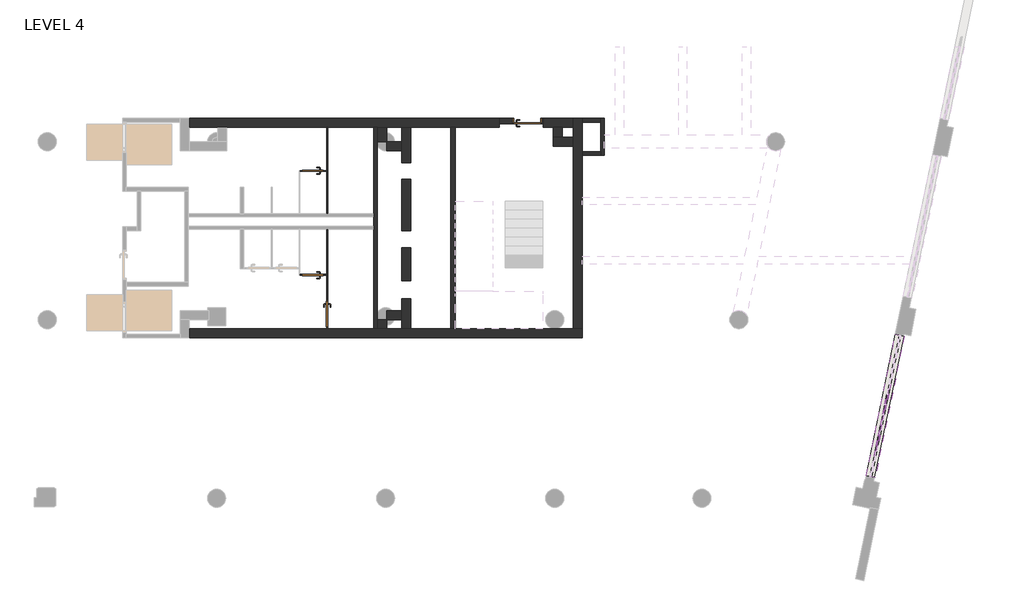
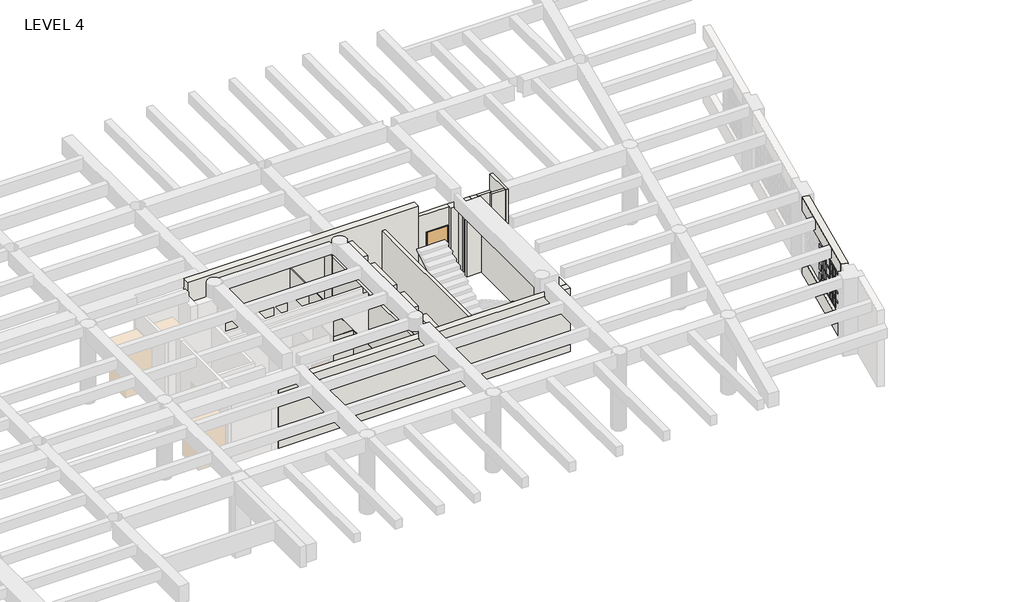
# One storey, part 18 of 26: 49 members, 26 walls, 20 plates, 4 doors.
"""IFC4 building model written with IfcOpenShell, lengths in millimetres."""

from ifc_helpers import new_model, si_unit, frame, origin, origin_with_axes, place, context, project, spatial, polyline, outline, extrude, faceted_brep, transform, mapped, element, save
from components import door_08_door_single_swing_wh_f_28x60_77af0ad2, door_08_door_single_swing_wh_f_28x60_203d07ed, door_08_door_single_swing_wh_f_34x60_2c6df15a, door_08_door_single_swing_wh_f_36x84_84392a36, member_3d4b608b, member_3c10d71f, member_653bb31e, member_ff98d70f, system_panel_glazed_ab35d819, system_panel_glazed_3fb58467

model = new_model("IFC4")

# Units and contexts
model_context = context("Model", 3, world=origin())
ifc_project = project(units=[si_unit("LENGTHUNIT", "METRE", prefix="MILLI")], contexts=[model_context])

# Site, building, storey
site = spatial("IfcSite", under=ifc_project)
building = spatial("IfcBuilding", under=site)
storey = spatial("IfcBuildingStorey", under=building, Name="LEVEL 4", Elevation=0.0)

# Doors
placement = place(None, origin())
door_08_door_single_swing_wh_f_28x60_shape = door_08_door_single_swing_wh_f_28x60_77af0ad2(model_context)
element("IfcDoor", 1, ObjectType="08-DOOR-SINGLE-SWING-WH : F_28x60", at=placement, inside=storey, context=model_context, shape_type="MappedRepresentation", body=[
    mapped(door_08_door_single_swing_wh_f_28x60_shape, transform((207.9568104, 100806.7341334, 0.0), x_axis=(1.0, 0.0, 0.0), y_axis=(0.0, 1.0, 0.0), z_axis=(0.0, 0.0, 1.0))),
])
door_08_door_single_swing_wh_f_28x60_2_shape = door_08_door_single_swing_wh_f_28x60_203d07ed(model_context)
element("IfcDoor", 2, ObjectType="08-DOOR-SINGLE-SWING-WH : F_28x60", at=placement, inside=storey, context=model_context, shape_type="MappedRepresentation", body=[
    mapped(door_08_door_single_swing_wh_f_28x60_2_shape, transform((207.9568104, 104315.8581071, 0.0), x_axis=(1.0, 0.0, 0.0), y_axis=(0.0, 1.0, 0.0), z_axis=(0.0, 0.0, 1.0))),
])
door_08_door_single_swing_wh_f_34x60_shape = door_08_door_single_swing_wh_f_34x60_2c6df15a(model_context)
element("IfcDoor", 3, ObjectType="08-DOOR-SINGLE-SWING-WH : F_34x60", at=placement, inside=storey, context=model_context, shape_type="MappedRepresentation", body=[
    mapped(door_08_door_single_swing_wh_f_34x60_shape, transform((721.6221305, 99469.0667606, 0.0), x_axis=(0.0, 1.0, 0.0), y_axis=(-1.0, 0.0, 0.0), z_axis=(0.0, 0.0, 1.0))),
])
door_08_door_single_swing_wh_f_36x84_shape = door_08_door_single_swing_wh_f_36x84_84392a36(model_context)
element("IfcDoor", 4, ObjectType="08-DOOR-SINGLE-SWING-WH : F_36x84", at=placement, inside=storey, context=model_context, shape_type="MappedRepresentation", body=[
    mapped(door_08_door_single_swing_wh_f_36x84_shape, transform((7486.6497772, 105999.3570808, 0.0), x_axis=(-1.0, 0.0, 0.0), y_axis=(0.0, -1.0, 0.0), z_axis=(0.0, 0.0, 1.0))),
])

# Members
member_shape = member_3d4b608b(model_context)
element("IfcMember", 5, ObjectType="Circular Mullion : 1 1/4\" Square", at=placement, inside=storey, context=model_context, shape_type="MappedRepresentation", body=[
    mapped(member_shape, transform((19281.0361202, 95033.4424535, 2171.7), x_axis=(0.20222128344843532, 0.9793398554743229, 0.0), y_axis=(0.9793398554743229, -0.20222128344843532, 0.0), z_axis=(0.0, 0.0, -1.0))),
])
element("IfcMember", 6, ObjectType="Circular Mullion : 1 1/4\" Square", at=placement, inside=storey, context=model_context, shape_type="MappedRepresentation", body=[
    mapped(member_shape, transform((19281.0361202, 95033.4424535, 1714.5), x_axis=(0.20222128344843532, 0.9793398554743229, 0.0), y_axis=(0.9793398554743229, -0.20222128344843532, 0.0), z_axis=(0.0, 0.0, -1.0))),
])
element("IfcMember", 7, ObjectType="Circular Mullion : 1 1/4\" Square", at=placement, inside=storey, context=model_context, shape_type="MappedRepresentation", body=[
    mapped(member_shape, transform((19281.0361202, 95033.4424535, 1257.3), x_axis=(0.20222128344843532, 0.9793398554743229, 0.0), y_axis=(0.9793398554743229, -0.20222128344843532, 0.0), z_axis=(0.0, 0.0, -1.0))),
])
element("IfcMember", 8, ObjectType="Circular Mullion : 1 1/4\" Square", at=placement, inside=storey, context=model_context, shape_type="MappedRepresentation", body=[
    mapped(member_shape, transform((19352.9460086, 95381.6957061, 2171.7), x_axis=(0.20222128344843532, 0.9793398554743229, 0.0), y_axis=(0.9793398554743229, -0.20222128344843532, 0.0), z_axis=(0.0, 0.0, -1.0))),
])
element("IfcMember", 9, ObjectType="Circular Mullion : 1 1/4\" Square", at=placement, inside=storey, context=model_context, shape_type="MappedRepresentation", body=[
    mapped(member_shape, transform((19352.9460086, 95381.6957061, 1714.5), x_axis=(0.20222128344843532, 0.9793398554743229, 0.0), y_axis=(0.9793398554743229, -0.20222128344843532, 0.0), z_axis=(0.0, 0.0, -1.0))),
])
element("IfcMember", 10, ObjectType="Circular Mullion : 1 1/4\" Square", at=placement, inside=storey, context=model_context, shape_type="MappedRepresentation", body=[
    mapped(member_shape, transform((19352.9460086, 95381.6957061, 1257.3), x_axis=(0.20222128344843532, 0.9793398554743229, 0.0), y_axis=(0.9793398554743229, -0.20222128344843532, 0.0), z_axis=(0.0, 0.0, -1.0))),
])
element("IfcMember", 11, ObjectType="Circular Mullion : 1 1/4\" Square", at=placement, inside=storey, context=model_context, shape_type="MappedRepresentation", body=[
    mapped(member_shape, transform((19424.855897, 95729.9489587, 2171.7), x_axis=(0.20222128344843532, 0.9793398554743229, 0.0), y_axis=(0.9793398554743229, -0.20222128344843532, 0.0), z_axis=(0.0, 0.0, -1.0))),
])
element("IfcMember", 12, ObjectType="Circular Mullion : 1 1/4\" Square", at=placement, inside=storey, context=model_context, shape_type="MappedRepresentation", body=[
    mapped(member_shape, transform((19424.855897, 95729.9489587, 1714.5), x_axis=(0.20222128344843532, 0.9793398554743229, 0.0), y_axis=(0.9793398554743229, -0.20222128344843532, 0.0), z_axis=(0.0, 0.0, -1.0))),
])
element("IfcMember", 13, ObjectType="Circular Mullion : 1 1/4\" Square", at=placement, inside=storey, context=model_context, shape_type="MappedRepresentation", body=[
    mapped(member_shape, transform((19424.855897, 95729.9489587, 1257.3), x_axis=(0.20222128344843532, 0.9793398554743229, 0.0), y_axis=(0.9793398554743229, -0.20222128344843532, 0.0), z_axis=(0.0, 0.0, -1.0))),
])
element("IfcMember", 14, ObjectType="Circular Mullion : 1 1/4\" Square", at=placement, inside=storey, context=model_context, shape_type="MappedRepresentation", body=[
    mapped(member_shape, transform((19281.0361202, 95033.4424535, 800.1), x_axis=(0.20222128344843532, 0.9793398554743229, 0.0), y_axis=(0.9793398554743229, -0.20222128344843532, 0.0), z_axis=(0.0, 0.0, -1.0))),
])
element("IfcMember", 15, ObjectType="Circular Mullion : 1 1/4\" Square", at=placement, inside=storey, context=model_context, shape_type="MappedRepresentation", body=[
    mapped(member_shape, transform((19352.9460086, 95381.6957061, 800.1), x_axis=(0.20222128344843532, 0.9793398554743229, 0.0), y_axis=(0.9793398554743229, -0.20222128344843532, 0.0), z_axis=(0.0, 0.0, -1.0))),
])
element("IfcMember", 16, ObjectType="Circular Mullion : 1 1/4\" Square", at=placement, inside=storey, context=model_context, shape_type="MappedRepresentation", body=[
    mapped(member_shape, transform((19424.855897, 95729.9489587, 800.1), x_axis=(0.20222128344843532, 0.9793398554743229, 0.0), y_axis=(0.9793398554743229, -0.20222128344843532, 0.0), z_axis=(0.0, 0.0, -1.0))),
])
member_2_shape = member_3c10d71f(model_context)
element("IfcMember", 17, ObjectType="Circular Mullion : 1 1/4\" Square", at=placement, inside=storey, context=model_context, shape_type="MappedRepresentation", body=[
    mapped(member_2_shape, transform((19278.4679099, 95021.0048373, 3048.0), x_axis=(0.0, 0.0, 1.0), y_axis=(0.9793398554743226, -0.202221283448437, 0.0), z_axis=(0.202221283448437, 0.9793398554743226, 0.0))),
])
element("IfcMember", 18, ObjectType="Circular Mullion : 1 1/4\" Square", at=placement, inside=storey, context=model_context, shape_type="MappedRepresentation", body=[
    mapped(member_2_shape, transform((19350.3777983, 95369.2580899, 3048.0), x_axis=(0.0, 0.0, 1.0), y_axis=(0.9793398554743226, -0.202221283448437, 0.0), z_axis=(0.202221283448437, 0.9793398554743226, 0.0))),
])
element("IfcMember", 19, ObjectType="Circular Mullion : 1 1/4\" Square", at=placement, inside=storey, context=model_context, shape_type="MappedRepresentation", body=[
    mapped(member_2_shape, transform((19422.2876867, 95717.5113426, 3048.0), x_axis=(0.0, 0.0, 1.0), y_axis=(0.9793398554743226, -0.202221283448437, 0.0), z_axis=(0.202221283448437, 0.9793398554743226, 0.0))),
])
element("IfcMember", 20, ObjectType="Circular Mullion : 1 1/4\" Square", at=placement, inside=storey, context=model_context, shape_type="MappedRepresentation", body=[
    mapped(member_2_shape, transform((19494.1975751, 96065.7645952, 3048.0), x_axis=(0.0, 0.0, 1.0), y_axis=(0.979339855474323, -0.20222128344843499, 0.0), z_axis=(0.20222128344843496, 0.9793398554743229, 0.0))),
])
element("IfcMember", 21, ObjectType="Circular Mullion : 1 1/4\" Square", at=placement, inside=storey, context=model_context, shape_type="MappedRepresentation", body=[
    mapped(member_2_shape, transform((19566.1074635, 96414.0178478, 3048.0), x_axis=(0.0, 0.0, 1.0), y_axis=(0.9793398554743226, -0.202221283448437, 0.0), z_axis=(0.202221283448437, 0.9793398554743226, 0.0))),
])
element("IfcMember", 22, ObjectType="Circular Mullion : 1 1/4\" Square", at=placement, inside=storey, context=model_context, shape_type="MappedRepresentation", body=[
    mapped(member_2_shape, transform((19638.0173519, 96762.2711004, 3048.0), x_axis=(0.0, 0.0, 1.0), y_axis=(0.9793398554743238, -0.20222128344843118, 0.0), z_axis=(0.20222128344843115, 0.9793398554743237, 0.0))),
])
element("IfcMember", 23, ObjectType="Circular Mullion : 1 1/4\" Square", at=placement, inside=storey, context=model_context, shape_type="MappedRepresentation", body=[
    mapped(member_2_shape, transform((19283.6043305, 95045.8800697, 800.1), x_axis=(0.0, 0.0, -1.0), y_axis=(0.9793398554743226, -0.202221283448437, 0.0), z_axis=(-0.202221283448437, -0.9793398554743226, 0.0))),
])
element("IfcMember", 24, ObjectType="Circular Mullion : 1 1/4\" Square", at=placement, inside=storey, context=model_context, shape_type="MappedRepresentation", body=[
    mapped(member_2_shape, transform((19355.5142189, 95394.1333223, 800.1), x_axis=(0.0, 0.0, -1.0), y_axis=(0.9793398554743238, -0.20222128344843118, 0.0), z_axis=(-0.20222128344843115, -0.9793398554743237, 0.0))),
])
element("IfcMember", 25, ObjectType="Circular Mullion : 1 1/4\" Square", at=placement, inside=storey, context=model_context, shape_type="MappedRepresentation", body=[
    mapped(member_2_shape, transform((19427.4241073, 95742.3865749, 800.1), x_axis=(0.0, 0.0, -1.0), y_axis=(0.9793398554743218, -0.20222128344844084, 0.0), z_axis=(-0.20222128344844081, -0.9793398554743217, 0.0))),
])
member_3_shape = member_653bb31e(model_context)
element("IfcMember", 26, ObjectType="Circular Mullion : 1 1/4\" Square", at=placement, inside=storey, context=model_context, shape_type="MappedRepresentation", body=[
    mapped(member_3_shape, transform((19278.4679099, 95021.0048373, 2171.7), x_axis=(0.0, 0.0, 1.0), y_axis=(0.9793398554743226, -0.202221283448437, 0.0), z_axis=(0.202221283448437, 0.9793398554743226, 0.0))),
])
element("IfcMember", 27, ObjectType="Circular Mullion : 1 1/4\" Square", at=placement, inside=storey, context=model_context, shape_type="MappedRepresentation", body=[
    mapped(member_3_shape, transform((19350.3777983, 95369.2580899, 2171.7), x_axis=(0.0, 0.0, 1.0), y_axis=(0.9793398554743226, -0.202221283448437, 0.0), z_axis=(0.202221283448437, 0.9793398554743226, 0.0))),
])
element("IfcMember", 28, ObjectType="Circular Mullion : 1 1/4\" Square", at=placement, inside=storey, context=model_context, shape_type="MappedRepresentation", body=[
    mapped(member_3_shape, transform((19422.2876867, 95717.5113426, 2171.7), x_axis=(0.0, 0.0, 1.0), y_axis=(0.9793398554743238, -0.20222128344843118, 0.0), z_axis=(0.20222128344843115, 0.9793398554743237, 0.0))),
])
element("IfcMember", 29, ObjectType="Circular Mullion : 1 1/4\" Square", at=placement, inside=storey, context=model_context, shape_type="MappedRepresentation", body=[
    mapped(member_3_shape, transform((19494.1975751, 96065.7645952, 2171.7), x_axis=(0.0, 0.0, 1.0), y_axis=(0.9793398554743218, -0.20222128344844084, 0.0), z_axis=(0.20222128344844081, 0.9793398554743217, 0.0))),
])
element("IfcMember", 30, ObjectType="Circular Mullion : 1 1/4\" Square", at=placement, inside=storey, context=model_context, shape_type="MappedRepresentation", body=[
    mapped(member_3_shape, transform((19566.1074635, 96414.0178478, 2171.7), x_axis=(0.0, 0.0, 1.0), y_axis=(0.9793398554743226, -0.202221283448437, 0.0), z_axis=(0.202221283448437, 0.9793398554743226, 0.0))),
])
element("IfcMember", 31, ObjectType="Circular Mullion : 1 1/4\" Square", at=placement, inside=storey, context=model_context, shape_type="MappedRepresentation", body=[
    mapped(member_3_shape, transform((19638.0173519, 96762.2711004, 2171.7), x_axis=(0.0, 0.0, 1.0), y_axis=(0.9793398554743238, -0.20222128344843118, 0.0), z_axis=(0.20222128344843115, 0.9793398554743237, 0.0))),
])
element("IfcMember", 32, ObjectType="Circular Mullion : 1 1/4\" Square", at=placement, inside=storey, context=model_context, shape_type="MappedRepresentation", body=[
    mapped(member_3_shape, transform((19278.4679099, 95021.0048373, 1714.5), x_axis=(0.0, 0.0, 1.0), y_axis=(0.9793398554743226, -0.202221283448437, 0.0), z_axis=(0.202221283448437, 0.9793398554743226, 0.0))),
])
element("IfcMember", 33, ObjectType="Circular Mullion : 1 1/4\" Square", at=placement, inside=storey, context=model_context, shape_type="MappedRepresentation", body=[
    mapped(member_3_shape, transform((19350.3777983, 95369.2580899, 1714.5), x_axis=(0.0, 0.0, 1.0), y_axis=(0.9793398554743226, -0.202221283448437, 0.0), z_axis=(0.202221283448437, 0.9793398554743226, 0.0))),
])
element("IfcMember", 34, ObjectType="Circular Mullion : 1 1/4\" Square", at=placement, inside=storey, context=model_context, shape_type="MappedRepresentation", body=[
    mapped(member_3_shape, transform((19422.2876867, 95717.5113426, 1714.5), x_axis=(0.0, 0.0, 1.0), y_axis=(0.9793398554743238, -0.20222128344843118, 0.0), z_axis=(0.20222128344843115, 0.9793398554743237, 0.0))),
])
element("IfcMember", 35, ObjectType="Circular Mullion : 1 1/4\" Square", at=placement, inside=storey, context=model_context, shape_type="MappedRepresentation", body=[
    mapped(member_3_shape, transform((19494.1975751, 96065.7645952, 1714.5), x_axis=(0.0, 0.0, 1.0), y_axis=(0.9793398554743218, -0.20222128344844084, 0.0), z_axis=(0.20222128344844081, 0.9793398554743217, 0.0))),
])
element("IfcMember", 36, ObjectType="Circular Mullion : 1 1/4\" Square", at=placement, inside=storey, context=model_context, shape_type="MappedRepresentation", body=[
    mapped(member_3_shape, transform((19566.1074635, 96414.0178478, 1714.5), x_axis=(0.0, 0.0, 1.0), y_axis=(0.9793398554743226, -0.202221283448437, 0.0), z_axis=(0.202221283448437, 0.9793398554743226, 0.0))),
])
element("IfcMember", 37, ObjectType="Circular Mullion : 1 1/4\" Square", at=placement, inside=storey, context=model_context, shape_type="MappedRepresentation", body=[
    mapped(member_3_shape, transform((19638.0173519, 96762.2711004, 1714.5), x_axis=(0.0, 0.0, 1.0), y_axis=(0.9793398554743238, -0.20222128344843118, 0.0), z_axis=(0.20222128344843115, 0.9793398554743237, 0.0))),
])
element("IfcMember", 38, ObjectType="Circular Mullion : 1 1/4\" Square", at=placement, inside=storey, context=model_context, shape_type="MappedRepresentation", body=[
    mapped(member_3_shape, transform((19278.4679099, 95021.0048373, 1257.3), x_axis=(0.0, 0.0, 1.0), y_axis=(0.9793398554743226, -0.202221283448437, 0.0), z_axis=(0.202221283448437, 0.9793398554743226, 0.0))),
])
element("IfcMember", 39, ObjectType="Circular Mullion : 1 1/4\" Square", at=placement, inside=storey, context=model_context, shape_type="MappedRepresentation", body=[
    mapped(member_3_shape, transform((19350.3777983, 95369.2580899, 1257.3), x_axis=(0.0, 0.0, 1.0), y_axis=(0.9793398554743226, -0.202221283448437, 0.0), z_axis=(0.202221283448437, 0.9793398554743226, 0.0))),
])
element("IfcMember", 40, ObjectType="Circular Mullion : 1 1/4\" Square", at=placement, inside=storey, context=model_context, shape_type="MappedRepresentation", body=[
    mapped(member_3_shape, transform((19422.2876867, 95717.5113426, 1257.3), x_axis=(0.0, 0.0, 1.0), y_axis=(0.9793398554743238, -0.20222128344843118, 0.0), z_axis=(0.20222128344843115, 0.9793398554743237, 0.0))),
])
element("IfcMember", 41, ObjectType="Circular Mullion : 1 1/4\" Square", at=placement, inside=storey, context=model_context, shape_type="MappedRepresentation", body=[
    mapped(member_3_shape, transform((19494.1975751, 96065.7645952, 1257.3), x_axis=(0.0, 0.0, 1.0), y_axis=(0.9793398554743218, -0.20222128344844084, 0.0), z_axis=(0.20222128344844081, 0.9793398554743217, 0.0))),
])
element("IfcMember", 42, ObjectType="Circular Mullion : 1 1/4\" Square", at=placement, inside=storey, context=model_context, shape_type="MappedRepresentation", body=[
    mapped(member_3_shape, transform((19566.1074635, 96414.0178478, 1257.3), x_axis=(0.0, 0.0, 1.0), y_axis=(0.9793398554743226, -0.202221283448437, 0.0), z_axis=(0.202221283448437, 0.9793398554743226, 0.0))),
])
element("IfcMember", 43, ObjectType="Circular Mullion : 1 1/4\" Square", at=placement, inside=storey, context=model_context, shape_type="MappedRepresentation", body=[
    mapped(member_3_shape, transform((19638.0173519, 96762.2711004, 1257.3), x_axis=(0.0, 0.0, 1.0), y_axis=(0.9793398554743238, -0.20222128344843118, 0.0), z_axis=(0.20222128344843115, 0.9793398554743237, 0.0))),
])
element("IfcMember", 44, ObjectType="Circular Mullion : 1 1/4\" Square", at=placement, inside=storey, context=model_context, shape_type="MappedRepresentation", body=[
    mapped(member_3_shape, transform((19278.4679099, 95021.0048373, 2628.9), x_axis=(0.0, 0.0, 1.0), y_axis=(0.9793398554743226, -0.202221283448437, 0.0), z_axis=(0.202221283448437, 0.9793398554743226, 0.0))),
])
element("IfcMember", 45, ObjectType="Circular Mullion : 1 1/4\" Square", at=placement, inside=storey, context=model_context, shape_type="MappedRepresentation", body=[
    mapped(member_3_shape, transform((19350.3777983, 95369.2580899, 2628.9), x_axis=(0.0, 0.0, 1.0), y_axis=(0.9793398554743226, -0.202221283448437, 0.0), z_axis=(0.202221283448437, 0.9793398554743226, 0.0))),
])
element("IfcMember", 46, ObjectType="Circular Mullion : 1 1/4\" Square", at=placement, inside=storey, context=model_context, shape_type="MappedRepresentation", body=[
    mapped(member_3_shape, transform((19422.2876867, 95717.5113426, 2628.9), x_axis=(0.0, 0.0, 1.0), y_axis=(0.9793398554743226, -0.202221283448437, 0.0), z_axis=(0.202221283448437, 0.9793398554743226, 0.0))),
])
element("IfcMember", 47, ObjectType="Circular Mullion : 1 1/4\" Square", at=placement, inside=storey, context=model_context, shape_type="MappedRepresentation", body=[
    mapped(member_3_shape, transform((19494.1975751, 96065.7645952, 2628.9), x_axis=(0.0, 0.0, 1.0), y_axis=(0.979339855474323, -0.20222128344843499, 0.0), z_axis=(0.20222128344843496, 0.9793398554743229, 0.0))),
])
element("IfcMember", 48, ObjectType="Circular Mullion : 1 1/4\" Square", at=placement, inside=storey, context=model_context, shape_type="MappedRepresentation", body=[
    mapped(member_3_shape, transform((19566.1074635, 96414.0178478, 2628.9), x_axis=(0.0, 0.0, 1.0), y_axis=(0.9793398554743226, -0.202221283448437, 0.0), z_axis=(0.202221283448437, 0.9793398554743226, 0.0))),
])
element("IfcMember", 49, ObjectType="Circular Mullion : 1 1/4\" Square", at=placement, inside=storey, context=model_context, shape_type="MappedRepresentation", body=[
    mapped(member_3_shape, transform((19638.0173519, 96762.2711004, 2628.9), x_axis=(0.0, 0.0, 1.0), y_axis=(0.9793398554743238, -0.20222128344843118, 0.0), z_axis=(0.20222128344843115, 0.9793398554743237, 0.0))),
])
member_4_shape = member_ff98d70f(model_context)
element("IfcMember", 50, ObjectType="Circular Mullion : 1 1/4\" Square", at=placement, inside=storey, context=model_context, shape_type="MappedRepresentation", body=[
    mapped(member_4_shape, transform((19281.0361202, 95033.4424535, 2628.9), x_axis=(0.20222128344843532, 0.9793398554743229, 0.0), y_axis=(0.9793398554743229, -0.20222128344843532, 0.0), z_axis=(0.0, 0.0, -1.0))),
])
element("IfcMember", 51, ObjectType="Circular Mullion : 1 1/4\" Square", at=placement, inside=storey, context=model_context, shape_type="MappedRepresentation", body=[
    mapped(member_4_shape, transform((19352.9460086, 95381.6957061, 2628.9), x_axis=(0.20222128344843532, 0.9793398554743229, 0.0), y_axis=(0.9793398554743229, -0.20222128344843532, 0.0), z_axis=(0.0, 0.0, -1.0))),
])
element("IfcMember", 52, ObjectType="Circular Mullion : 1 1/4\" Square", at=placement, inside=storey, context=model_context, shape_type="MappedRepresentation", body=[
    mapped(member_4_shape, transform((19424.855897, 95729.9489587, 2628.9), x_axis=(0.20222128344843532, 0.9793398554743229, 0.0), y_axis=(0.9793398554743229, -0.20222128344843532, 0.0), z_axis=(0.0, 0.0, -1.0))),
])
element("IfcMember", 53, ObjectType="Circular Mullion : 1 1/4\" Square", at=placement, inside=storey, context=model_context, shape_type="MappedRepresentation", body=[
    mapped(member_4_shape, transform((19496.7657854, 96078.2022113, 2628.9), x_axis=(0.20222128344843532, 0.9793398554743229, 0.0), y_axis=(0.9793398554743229, -0.20222128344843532, 0.0), z_axis=(0.0, 0.0, -1.0))),
])

# Plates
system_panel_glazed_shape = system_panel_glazed_ab35d819(model_context)
element("IfcPlate", 54, ObjectType="System Panel : Glazed", at=placement, inside=storey, context=model_context, shape_type="MappedRepresentation", body=[
    mapped(system_panel_glazed_shape, transform((19676.5405064, 96948.8353428, 800.1), x_axis=(0.20222128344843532, 0.9793398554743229, 0.0), y_axis=(-0.9793398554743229, 0.20222128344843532, 0.0), z_axis=(0.0, 0.0, 1.0))),
])
element("IfcPlate", 55, ObjectType="System Panel : Glazed", at=placement, inside=storey, context=model_context, shape_type="MappedRepresentation", body=[
    mapped(system_panel_glazed_shape, transform((19604.630618, 96600.5820902, 800.1), x_axis=(0.20222128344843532, 0.9793398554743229, 0.0), y_axis=(-0.9793398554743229, 0.20222128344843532, 0.0), z_axis=(0.0, 0.0, 1.0))),
])
element("IfcPlate", 56, ObjectType="System Panel : Glazed", at=placement, inside=storey, context=model_context, shape_type="MappedRepresentation", body=[
    mapped(system_panel_glazed_shape, transform((19532.7207296, 96252.3288376, 800.1), x_axis=(0.20222128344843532, 0.9793398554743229, 0.0), y_axis=(-0.9793398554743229, 0.20222128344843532, 0.0), z_axis=(0.0, 0.0, 1.0))),
])
element("IfcPlate", 57, ObjectType="System Panel : Glazed", at=placement, inside=storey, context=model_context, shape_type="MappedRepresentation", body=[
    mapped(system_panel_glazed_shape, transform((19676.5405064, 96948.8353428, 1257.3), x_axis=(0.20222128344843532, 0.9793398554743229, 0.0), y_axis=(-0.9793398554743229, 0.20222128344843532, 0.0), z_axis=(0.0, 0.0, 1.0))),
])
element("IfcPlate", 58, ObjectType="System Panel : Glazed", at=placement, inside=storey, context=model_context, shape_type="MappedRepresentation", body=[
    mapped(system_panel_glazed_shape, transform((19604.630618, 96600.5820902, 1257.3), x_axis=(0.20222128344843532, 0.9793398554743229, 0.0), y_axis=(-0.9793398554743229, 0.20222128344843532, 0.0), z_axis=(0.0, 0.0, 1.0))),
])
element("IfcPlate", 59, ObjectType="System Panel : Glazed", at=placement, inside=storey, context=model_context, shape_type="MappedRepresentation", body=[
    mapped(system_panel_glazed_shape, transform((19532.7207296, 96252.3288376, 1257.3), x_axis=(0.20222128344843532, 0.9793398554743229, 0.0), y_axis=(-0.9793398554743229, 0.20222128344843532, 0.0), z_axis=(0.0, 0.0, 1.0))),
])
element("IfcPlate", 60, ObjectType="System Panel : Glazed", at=placement, inside=storey, context=model_context, shape_type="MappedRepresentation", body=[
    mapped(system_panel_glazed_shape, transform((19676.5405064, 96948.8353428, 1714.5), x_axis=(0.20222128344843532, 0.9793398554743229, 0.0), y_axis=(-0.9793398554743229, 0.20222128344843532, 0.0), z_axis=(0.0, 0.0, 1.0))),
])
element("IfcPlate", 61, ObjectType="System Panel : Glazed", at=placement, inside=storey, context=model_context, shape_type="MappedRepresentation", body=[
    mapped(system_panel_glazed_shape, transform((19604.630618, 96600.5820902, 1714.5), x_axis=(0.20222128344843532, 0.9793398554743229, 0.0), y_axis=(-0.9793398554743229, 0.20222128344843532, 0.0), z_axis=(0.0, 0.0, 1.0))),
])
element("IfcPlate", 62, ObjectType="System Panel : Glazed", at=placement, inside=storey, context=model_context, shape_type="MappedRepresentation", body=[
    mapped(system_panel_glazed_shape, transform((19532.7207296, 96252.3288376, 1714.5), x_axis=(0.20222128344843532, 0.9793398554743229, 0.0), y_axis=(-0.9793398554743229, 0.20222128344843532, 0.0), z_axis=(0.0, 0.0, 1.0))),
])
element("IfcPlate", 63, ObjectType="System Panel : Glazed", at=placement, inside=storey, context=model_context, shape_type="MappedRepresentation", body=[
    mapped(system_panel_glazed_shape, transform((19676.5405064, 96948.8353428, 2171.7), x_axis=(0.20222128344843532, 0.9793398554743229, 0.0), y_axis=(-0.9793398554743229, 0.20222128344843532, 0.0), z_axis=(0.0, 0.0, 1.0))),
])
element("IfcPlate", 64, ObjectType="System Panel : Glazed", at=placement, inside=storey, context=model_context, shape_type="MappedRepresentation", body=[
    mapped(system_panel_glazed_shape, transform((19604.630618, 96600.5820902, 2171.7), x_axis=(0.20222128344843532, 0.9793398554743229, 0.0), y_axis=(-0.9793398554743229, 0.20222128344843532, 0.0), z_axis=(0.0, 0.0, 1.0))),
])
element("IfcPlate", 65, ObjectType="System Panel : Glazed", at=placement, inside=storey, context=model_context, shape_type="MappedRepresentation", body=[
    mapped(system_panel_glazed_shape, transform((19532.7207296, 96252.3288376, 2171.7), x_axis=(0.20222128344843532, 0.9793398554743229, 0.0), y_axis=(-0.9793398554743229, 0.20222128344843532, 0.0), z_axis=(0.0, 0.0, 1.0))),
])
element("IfcPlate", 66, ObjectType="System Panel : Glazed", at=placement, inside=storey, context=model_context, shape_type="MappedRepresentation", body=[
    mapped(system_panel_glazed_shape, transform((19316.9910644, 95207.5690798, 800.1), x_axis=(0.20222128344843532, 0.9793398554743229, 0.0), y_axis=(-0.9793398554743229, 0.20222128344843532, 0.0), z_axis=(0.0, 0.0, 1.0))),
])
element("IfcPlate", 67, ObjectType="System Panel : Glazed", at=placement, inside=storey, context=model_context, shape_type="MappedRepresentation", body=[
    mapped(system_panel_glazed_shape, transform((19316.9910644, 95207.5690798, 1257.3), x_axis=(0.20222128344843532, 0.9793398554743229, 0.0), y_axis=(-0.9793398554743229, 0.20222128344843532, 0.0), z_axis=(0.0, 0.0, 1.0))),
])
element("IfcPlate", 68, ObjectType="System Panel : Glazed", at=placement, inside=storey, context=model_context, shape_type="MappedRepresentation", body=[
    mapped(system_panel_glazed_shape, transform((19316.9910644, 95207.5690798, 1714.5), x_axis=(0.20222128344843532, 0.9793398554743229, 0.0), y_axis=(-0.9793398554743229, 0.20222128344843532, 0.0), z_axis=(0.0, 0.0, 1.0))),
])
element("IfcPlate", 69, ObjectType="System Panel : Glazed", at=placement, inside=storey, context=model_context, shape_type="MappedRepresentation", body=[
    mapped(system_panel_glazed_shape, transform((19316.9910644, 95207.5690798, 2171.7), x_axis=(0.20222128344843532, 0.9793398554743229, 0.0), y_axis=(-0.9793398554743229, 0.20222128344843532, 0.0), z_axis=(0.0, 0.0, 1.0))),
])
system_panel_glazed_2_shape = system_panel_glazed_3fb58467(model_context)
element("IfcPlate", 70, ObjectType="System Panel : Glazed", at=placement, inside=storey, context=model_context, shape_type="MappedRepresentation", body=[
    mapped(system_panel_glazed_2_shape, transform((19676.5405064, 96948.8353428, 2628.9), x_axis=(0.20222128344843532, 0.9793398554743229, 0.0), y_axis=(-0.9793398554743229, 0.20222128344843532, 0.0), z_axis=(0.0, 0.0, 1.0))),
])
element("IfcPlate", 71, ObjectType="System Panel : Glazed", at=placement, inside=storey, context=model_context, shape_type="MappedRepresentation", body=[
    mapped(system_panel_glazed_2_shape, transform((19604.630618, 96600.5820902, 2628.9), x_axis=(0.20222128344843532, 0.9793398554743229, 0.0), y_axis=(-0.9793398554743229, 0.20222128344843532, 0.0), z_axis=(0.0, 0.0, 1.0))),
])
element("IfcPlate", 72, ObjectType="System Panel : Glazed", at=placement, inside=storey, context=model_context, shape_type="MappedRepresentation", body=[
    mapped(system_panel_glazed_2_shape, transform((19532.7207296, 96252.3288376, 2628.9), x_axis=(0.20222128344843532, 0.9793398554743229, 0.0), y_axis=(-0.9793398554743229, 0.20222128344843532, 0.0), z_axis=(0.0, 0.0, 1.0))),
])
element("IfcPlate", 73, ObjectType="System Panel : Glazed", at=placement, inside=storey, context=model_context, shape_type="MappedRepresentation", body=[
    mapped(system_panel_glazed_2_shape, transform((19316.9910644, 95207.5690798, 2628.9), x_axis=(0.20222128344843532, 0.9793398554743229, 0.0), y_axis=(-0.9793398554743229, 0.20222128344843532, 0.0), z_axis=(0.0, 0.0, 1.0))),
])

# Walls
element("IfcWall", 74, ObjectType="A_3.6Stud_0Hr_1GB_FullHeight", at=placement, inside=storey, context=model_context, shape_type="Brep", body=[
    faceted_brep([(9960.659457, 106091.4320808, 0.0), (9960.659457, 105967.6070808, 0.0), (9960.659457, 104970.6570808, 0.0), (9960.659457, 104846.8320808, 0.0), (9960.659457, 104846.8320808, 3810.0), (9960.659457, 104970.6570808, 3810.0), (9960.659457, 106091.4320808, 3810.0), (9960.659457, 106091.4320808, 3048.0), (10084.484457, 106091.4320808, 0.0), (10084.484457, 106091.4320808, 3810.0), (10084.484457, 104846.8320808, 3810.0), (10084.484457, 104846.8320808, 0.0)], [[[0, 1, 2, 3, 4, 5, 6, 7]], [[8, 9, 10, 11]], [[3, 2, 1, 0, 8, 11]], [[6, 5, 4, 10, 9]], [[4, 3, 11, 10]], [[0, 7, 6, 9, 8]]]),
])
element("IfcWall", 75, ObjectType="A_6.0Stud_0Hr_1GB_FullHeight", at=placement, inside=storey, context=model_context, shape_type="SweptSolid", body=[
    extrude(outline(polyline([(0.0, 8008.034457), (3048.0, 8008.034457), (3048.0, 6534.834457), (0.0, 6534.834457), (0.0, 6960.284457), (2184.4, 6960.284457), (2184.4, 7976.284457), (0.0, 7976.284457), (0.0, 8008.034457)])), frame((0.0, 105907.2820808, 0.0), z_axis=(0.0, 1.0, 0.0), x_axis=(0.0, 0.0, 1.0)), (0.0, 0.0, 1.0), 184.15),
])
element("IfcWall", 76, ObjectType="A_3.6Stud_0Hr_1GB_FullHeight", at=placement, inside=storey, context=model_context, shape_type="SweptSolid", body=[
    extrude(outline(polyline([(9960.659457, 105967.6070808), (9335.184457, 105967.6070808), (9335.184457, 106091.4320808), (9960.659457, 106091.4320808), (9960.659457, 105967.6070808)])), origin_with_axes(), (0.0, 0.0, 1.0), 3048.0),
])
element("IfcWall", 77, ObjectType="A_3.6Stud_0Hr_1GB_FullHeight", at=placement, inside=storey, context=model_context, shape_type="SweptSolid", body=[
    extrude(outline(polyline([(9335.184457, 104970.6570808), (9960.659457, 104970.6570808), (9960.659457, 104846.8320808), (9335.184457, 104846.8320808), (9335.184457, 104970.6570808)])), origin_with_axes(), (0.0, 0.0, 1.0), 3810.0),
])
element("IfcWall", 78, ObjectType="A_3.6Stud_0Hr_1GB_FullHeight", at=placement, inside=storey, context=model_context, shape_type="Brep", body=[
    faceted_brep([(2407.5471305, 98979.4320808, 0.0), (2407.5471305, 105786.6320808, 0.0), (2407.5471305, 105786.6320808, 3048.0), (2407.5471305, 98979.4320808, 3048.0), (2283.7221305, 98979.4320808, 0.0), (2283.7221305, 98979.4320808, 3048.0), (2283.7221305, 102343.4341334, 3048.0), (2283.7221305, 102451.3841334, 3048.0), (2283.7221305, 102762.5341334, 3048.0), (2283.7221305, 102870.4841334, 3048.0), (2283.7221305, 105786.6320808, 3048.0), (2283.7221305, 105786.6320808, 0.0), (2283.7221305, 102870.4841334, 0.0), (2283.7221305, 102762.5341334, 0.0), (2283.7221305, 102451.3841334, 0.0), (2283.7221305, 102343.4341334, 0.0)], [[[0, 1, 2, 3]], [[4, 5, 6, 7, 8, 9, 10, 11, 12, 13, 14, 15]], [[1, 0, 4, 15, 14, 13, 12, 11]], [[3, 2, 10, 9, 8, 7, 6, 5]], [[0, 3, 5, 4]], [[2, 1, 11, 10]]]),
])
element("IfcWall", 79, ObjectType="_Generic - 1\" 2", at=placement, inside=storey, context=model_context, shape_type="Brep", body=[
    faceted_brep([(708.9221305, 105786.6320808, 304.8), (708.9221305, 104328.5581071, 304.8), (708.9221305, 104303.1581071, 304.8), (708.9221305, 102870.4841334, 304.8), (708.9221305, 102870.4841334, 2743.2), (708.9221305, 104303.1581071, 2743.2), (708.9221305, 104328.5581071, 2743.2), (708.9221305, 105786.6320808, 2743.2), (734.3221305, 105786.6320808, 304.8), (734.3221305, 105786.6320808, 2743.2), (734.3221305, 102870.4841334, 2743.2), (734.3221305, 102870.4841334, 304.8)], [[[0, 1, 2, 3, 4, 5, 6, 7]], [[8, 9, 10, 11]], [[3, 2, 1, 0, 8, 11]], [[7, 6, 5, 4, 10, 9]], [[4, 3, 11, 10]], [[0, 7, 9, 8]]]),
])
element("IfcWall", 80, ObjectType="_Generic - 1\" 2", at=placement, inside=storey, context=model_context, shape_type="Brep", body=[
    faceted_brep([(708.9221305, 98979.4320808, 2743.2), (708.9221305, 100794.0341334, 2743.2), (708.9221305, 100819.4341334, 2743.2), (708.9221305, 102343.4341334, 2743.2), (708.9221305, 102343.4341334, 304.8), (708.9221305, 100819.4341334, 304.8), (708.9221305, 100794.0341334, 304.8), (708.9221305, 99970.0320808, 304.8), (708.9221305, 99970.0320808, 1574.8), (708.9221305, 99004.8320808, 1574.8), (708.9221305, 99004.8320808, 304.8), (708.9221305, 98979.4320808, 304.8), (734.3221305, 102343.4341334, 2743.2), (734.3221305, 98979.4320808, 2743.2), (734.3221305, 98979.4320808, 304.8), (734.3221305, 99004.8320808, 304.8), (734.3221305, 99004.8320808, 1574.8), (734.3221305, 99970.0320808, 1574.8), (734.3221305, 99970.0320808, 304.8), (734.3221305, 102343.4341334, 304.8)], [[[0, 1, 2, 3, 4, 5, 6, 7, 8, 9, 10, 11]], [[12, 13, 14, 15, 16, 17, 18, 19]], [[4, 19, 18, 7, 6, 5]], [[14, 11, 10, 15]], [[3, 2, 1, 0, 13, 12]], [[4, 3, 12, 19]], [[0, 11, 14, 13]], [[9, 16, 15, 10]], [[17, 8, 7, 18]], [[16, 9, 8, 17]]]),
])
element("IfcWall", 81, ObjectType="_Generic - 1\" 2", at=placement, inside=storey, context=model_context, shape_type="SweptSolid", body=[
    extrude(outline(polyline([(2743.2, 708.9221305), (2743.2, -205.4778695), (304.8, -205.4778695), (304.8, -180.0778695), (1574.8, -180.0778695), (1574.8, 632.7221305), (304.8, 632.7221305), (304.8, 708.9221305), (2743.2, 708.9221305)])), frame((0.0, 104303.1581071, 0.0), z_axis=(0.0, 1.0, 0.0), x_axis=(0.0, 0.0, 1.0)), (0.0, 0.0, 1.0), 25.4),
])
element("IfcWall", 82, ObjectType="_Generic - 1\" 2", at=placement, inside=storey, context=model_context, shape_type="SweptSolid", body=[
    extrude(outline(polyline([(2743.2, 708.9221305), (2743.2, -205.4778695), (304.8, -205.4778695), (304.8, -180.0778695), (1574.8, -180.0778695), (1574.8, 632.7221305), (304.8, 632.7221305), (304.8, 708.9221305), (2743.2, 708.9221305)])), frame((0.0, 100794.0341334, 0.0), z_axis=(0.0, 1.0, 0.0), x_axis=(0.0, 0.0, 1.0)), (0.0, 0.0, 1.0), 25.4),
])
element("IfcWall", 83, ObjectType="_Generic - 11\"", at=placement, inside=storey, context=model_context, shape_type="SweptSolid", body=[
    extrude(outline(polyline([(20188.3129879, 98736.4769893), (19202.1202328, 93960.4323821), (18928.4926772, 94016.9330087), (19914.6854323, 98792.9776159), (20188.3129879, 98736.4769893)])), origin_with_axes(), (0.0, 0.0, 1.0), 800.1),
])
element("IfcWall", 84, ObjectType="_Generic - 12\"", at=placement, inside=storey, context=model_context, shape_type="Brep", body=[
    faceted_brep([(-3936.1028695, 98674.6320808, 0.0), (9335.184457, 98674.6320808, 0.0), (9335.184457, 98674.6320808, 3048.0), (-3936.1028695, 98674.6320808, 3048.0), (-3936.1028695, 98979.4320808, 0.0), (-3936.1028695, 98979.4320808, 3048.0), (2283.7221305, 98979.4320808, 3048.0), (2407.5471305, 98979.4320808, 3048.0), (2426.6010778, 98979.4320808, 3048.0), (2731.4010778, 98979.4320808, 3048.0), (3240.8295868, 98979.4320808, 3048.0), (3545.6295868, 98979.4320808, 3048.0), (4883.5367351, 98979.4320808, 3048.0), (5035.9367351, 98979.4320808, 3048.0), (9030.384457, 98979.4320808, 3048.0), (9335.184457, 98979.4320808, 3048.0), (9335.184457, 98979.4320808, 0.0), (9030.384457, 98979.4320808, 0.0), (5035.9367351, 98979.4320808, 0.0), (4883.5367351, 98979.4320808, 0.0), (3545.6295868, 98979.4320808, 0.0), (3240.8295868, 98979.4320808, 0.0), (2731.4010778, 98979.4320808, 0.0), (2426.6010778, 98979.4320808, 0.0), (2407.5471305, 98979.4320808, 0.0), (2283.7221305, 98979.4320808, 0.0)], [[[0, 1, 2, 3]], [[4, 5, 6, 7, 8, 9, 10, 11, 12, 13, 14, 15, 16, 17, 18, 19, 20, 21, 22, 23, 24, 25]], [[1, 0, 4, 25, 24, 23, 22, 21, 20, 19, 18, 17, 16]], [[3, 2, 15, 14, 13, 12, 11, 10, 9, 8, 7, 6, 5]], [[2, 1, 16, 15]], [[0, 3, 5, 4]]]),
])
element("IfcWall", 85, ObjectType="_Generic - 12\"", at=placement, inside=storey, context=model_context, shape_type="Brep", body=[
    faceted_brep([(9335.184457, 98979.4320808, 0.0), (9335.184457, 104846.8320808, 0.0), (9335.184457, 104970.6570808, 0.0), (9335.184457, 105967.6070808, 0.0), (9335.184457, 106091.4320808, 0.0), (9335.184457, 106091.4320808, 3048.0), (9335.184457, 105967.6070808, 3048.0), (9335.184457, 98979.4320808, 3048.0), (9030.384457, 98979.4320808, 0.0), (9030.384457, 98979.4320808, 3048.0), (9030.384457, 105146.9591334, 3048.0), (9030.384457, 105451.7591334, 3048.0), (9030.384457, 105786.6320808, 3048.0), (9030.384457, 106091.4320808, 3048.0), (9030.384457, 106091.4320808, 0.0), (9030.384457, 105786.6320808, 0.0), (9030.384457, 105451.7591334, 0.0), (9030.384457, 105146.9591334, 0.0)], [[[0, 1, 2, 3, 4, 5, 6, 7]], [[8, 9, 10, 11, 12, 13, 14, 15, 16, 17]], [[4, 3, 2, 1, 0, 8, 17, 16, 15, 14]], [[7, 6, 5, 13, 12, 11, 10, 9]], [[0, 7, 9, 8]], [[5, 4, 14, 13]]]),
])
element("IfcWall", 86, ObjectType="_Generic - 12\"", at=placement, inside=storey, context=model_context, shape_type="Brep", body=[
    faceted_brep([(9030.384457, 105451.7591334, 0.0), (8665.1189597, 105451.7591334, 0.0), (8360.3189597, 105451.7591334, 0.0), (8360.3189597, 105451.7591334, 3048.0), (8665.1189597, 105451.7591334, 3048.0), (9030.384457, 105451.7591334, 3048.0), (9030.384457, 105146.9591334, 0.0), (9030.384457, 105146.9591334, 3048.0), (8360.3189597, 105146.9591334, 3048.0), (8360.3189597, 105146.9591334, 0.0)], [[[0, 1, 2, 3, 4, 5]], [[6, 7, 8, 9]], [[2, 1, 0, 6, 9]], [[5, 4, 3, 8, 7]], [[0, 5, 7, 6]], [[3, 2, 9, 8]]]),
])
element("IfcWall", 87, ObjectType="_Generic - 12\"", at=placement, inside=storey, context=model_context, shape_type="SweptSolid", body=[
    extrude(outline(polyline([(8665.1189597, 105786.6320808), (8665.1189597, 105451.7591334), (8360.3189597, 105451.7591334), (8360.3189597, 105786.6320808), (8665.1189597, 105786.6320808)])), origin_with_axes(), (0.0, 0.0, 1.0), 3048.0),
])
element("IfcWall", 88, ObjectType="_Generic - 12\"", at=placement, inside=storey, context=model_context, shape_type="Brep", body=[
    faceted_brep([(8008.034457, 105786.6320808, 0.0), (8360.3189597, 105786.6320808, 0.0), (8665.1189597, 105786.6320808, 0.0), (9030.384457, 105786.6320808, 0.0), (9030.384457, 105786.6320808, 3048.0), (8665.1189597, 105786.6320808, 3048.0), (8360.3189597, 105786.6320808, 3048.0), (8008.034457, 105786.6320808, 3048.0), (8008.034457, 106091.4320808, 0.0), (8008.034457, 106091.4320808, 3048.0), (9030.384457, 106091.4320808, 3048.0), (9030.384457, 106091.4320808, 0.0), (8008.034457, 105907.2820808, 0.0), (8008.034457, 105907.2820808, 3048.0)], [[[0, 1, 2, 3, 4, 5, 6, 7]], [[8, 9, 10, 11]], [[3, 2, 1, 0, 12, 8, 11]], [[7, 6, 5, 4, 10, 9, 13]], [[0, 7, 13, 9, 8, 12]], [[4, 3, 11, 10]]]),
])
element("IfcWall", 89, ObjectType="_Generic - 12\"", at=placement, inside=storey, context=model_context, shape_type="Brep", body=[
    faceted_brep([(-3936.1028695, 105786.6320808, 0.0), (-2983.6028695, 105786.6320808, 0.0), (-2678.8028695, 105786.6320808, 0.0), (2283.7221305, 105786.6320808, 0.0), (2407.5471305, 105786.6320808, 0.0), (2426.6010778, 105786.6320808, 0.0), (2731.4010778, 105786.6320808, 0.0), (3240.8295868, 105786.6320808, 0.0), (3545.6295868, 105786.6320808, 0.0), (4883.5367351, 105786.6320808, 0.0), (5035.9367351, 105786.6320808, 0.0), (6534.834457, 105786.6320808, 0.0), (6534.834457, 105786.6320808, 3657.6), (-3936.1028695, 105786.6320808, 3657.6), (-3936.1028695, 106091.4320808, 0.0), (-3936.1028695, 106091.4320808, 3048.0), (-3936.1028695, 106091.4320808, 3657.6), (6534.834457, 106091.4320808, 3657.6), (6534.834457, 106091.4320808, 3048.0), (6534.834457, 106091.4320808, 0.0), (6534.834457, 105907.2820808, 0.0)], [[[0, 1, 2, 3, 4, 5, 6, 7, 8, 9, 10, 11, 12, 13]], [[14, 15, 16, 17, 18, 19]], [[11, 10, 9, 8, 7, 6, 5, 4, 3, 2, 1, 0, 14, 19, 20]], [[12, 11, 20, 19, 18, 17]], [[13, 12, 17, 16]], [[0, 13, 16, 15, 14]]]),
])
element("IfcWall", 90, ObjectType="_Generic - 12\"", at=placement, inside=storey, context=model_context, shape_type="Brep", body=[
    faceted_brep([(3240.8295868, 105786.6320808, 0.0), (3240.8295868, 105304.1579212, 0.0), (3240.8295868, 104999.3579212, 0.0), (3240.8295868, 104599.1820808, 0.0), (3240.8295868, 104599.1820808, 3048.0), (3240.8295868, 104999.3579212, 3048.0), (3240.8295868, 105304.1579212, 3048.0), (3240.8295868, 105786.6320808, 3048.0), (3545.6295868, 105786.6320808, 0.0), (3545.6295868, 105786.6320808, 3048.0), (3545.6295868, 104599.1820808, 3048.0), (3545.6295868, 104599.1820808, 0.0)], [[[0, 1, 2, 3, 4, 5, 6, 7]], [[8, 9, 10, 11]], [[3, 2, 1, 0, 8, 11]], [[4, 3, 11, 10]], [[7, 6, 5, 4, 10, 9]], [[0, 7, 9, 8]]]),
])
element("IfcWall", 91, ObjectType="_Generic - 12\"", at=placement, inside=storey, context=model_context, shape_type="SweptSolid", body=[
    extrude(outline(polyline([(3240.8295868, 102287.8716334), (3240.8295868, 104040.3820808), (3545.6295868, 104040.3820808), (3545.6295868, 102287.8716334), (3240.8295868, 102287.8716334)])), origin_with_axes(), (0.0, 0.0, 1.0), 3048.0),
])
element("IfcWall", 92, ObjectType="_Generic - 12\"", at=placement, inside=storey, context=model_context, shape_type="SweptSolid", body=[
    extrude(outline(polyline([(3240.8295868, 100604.9834812), (3240.8295868, 101729.0716334), (3545.6295868, 101729.0716334), (3545.6295868, 100604.9834812), (3240.8295868, 100604.9834812)])), origin_with_axes(), (0.0, 0.0, 1.0), 3048.0),
])
element("IfcWall", 93, ObjectType="_Generic - 12\"", at=placement, inside=storey, context=model_context, shape_type="Brep", body=[
    faceted_brep([(3240.8295868, 99995.3834812, 0.0), (3240.8295868, 99597.0591334, 0.0), (3240.8295868, 99292.2591334, 0.0), (3240.8295868, 98979.4320808, 0.0), (3240.8295868, 98979.4320808, 3048.0), (3240.8295868, 99292.2591334, 3048.0), (3240.8295868, 99597.0591334, 3048.0), (3240.8295868, 99995.3834812, 3048.0), (3545.6295868, 99995.3834812, 0.0), (3545.6295868, 99995.3834812, 3048.0), (3545.6295868, 98979.4320808, 3048.0), (3545.6295868, 98979.4320808, 0.0)], [[[0, 1, 2, 3, 4, 5, 6, 7]], [[8, 9, 10, 11]], [[3, 2, 1, 0, 8, 11]], [[7, 6, 5, 4, 10, 9]], [[0, 7, 9, 8]], [[4, 3, 11, 10]]]),
])
element("IfcWall", 94, ObjectType="_Generic - 12\"", at=placement, inside=storey, context=model_context, shape_type="SweptSolid", body=[
    extrude(outline(polyline([(20213.1882202, 98731.3405687), (19226.9954651, 93955.2959615), (18928.4926772, 94016.9330087), (19914.6854323, 98792.9776159), (20213.1882202, 98731.3405687)])), frame((0.0, 0.0, 3048.0), z_axis=(0.0, 0.0, 1.0), x_axis=(1.0, 0.0, 0.0)), (0.0, 0.0, 1.0), 609.6),
])
element("IfcWall", 95, ObjectType="_Generic - 12\"", at=placement, inside=storey, context=model_context, shape_type="SweptSolid", body=[
    extrude(outline(polyline([(2731.4010778, 105786.6320808), (2731.4010778, 105304.1579212), (2426.6010778, 105304.1579212), (2426.6010778, 105786.6320808), (2731.4010778, 105786.6320808)])), origin_with_axes(), (0.0, 0.0, 1.0), 3048.0),
])
element("IfcWall", 96, ObjectType="_Generic - 12\"", at=placement, inside=storey, context=model_context, shape_type="SweptSolid", body=[
    extrude(outline(polyline([(3240.8295868, 104999.3579212), (2731.4010778, 104999.3579212), (2731.4010778, 105304.1579212), (3240.8295868, 105304.1579212), (3240.8295868, 104999.3579212)])), origin_with_axes(), (0.0, 0.0, 1.0), 3048.0),
])
element("IfcWall", 97, ObjectType="_Generic - 12\"", at=placement, inside=storey, context=model_context, shape_type="SweptSolid", body=[
    extrude(outline(polyline([(2426.6010778, 98979.4320808), (2426.6010778, 99292.2591334), (2731.4010778, 99292.2591334), (2731.4010778, 98979.4320808), (2426.6010778, 98979.4320808)])), origin_with_axes(), (0.0, 0.0, 1.0), 3048.0),
])
element("IfcWall", 98, ObjectType="_Generic - 12\"", at=placement, inside=storey, context=model_context, shape_type="SweptSolid", body=[
    extrude(outline(polyline([(3240.8295868, 99292.2591334), (2731.4010778, 99292.2591334), (2731.4010778, 99597.0591334), (3240.8295868, 99597.0591334), (3240.8295868, 99292.2591334)])), origin_with_axes(), (0.0, 0.0, 1.0), 3048.0),
])
element("IfcWall", 99, ObjectType="_Generic - 6\"", at=placement, inside=storey, context=model_context, shape_type="SweptSolid", body=[
    extrude(outline(polyline([(4883.5367351, 98979.4320808), (4883.5367351, 105786.6320808), (5035.9367351, 105786.6320808), (5035.9367351, 98979.4320808), (4883.5367351, 98979.4320808)])), origin_with_axes(), (0.0, 0.0, 1.0), 3048.0),
])

save(model, "model.ifc")
